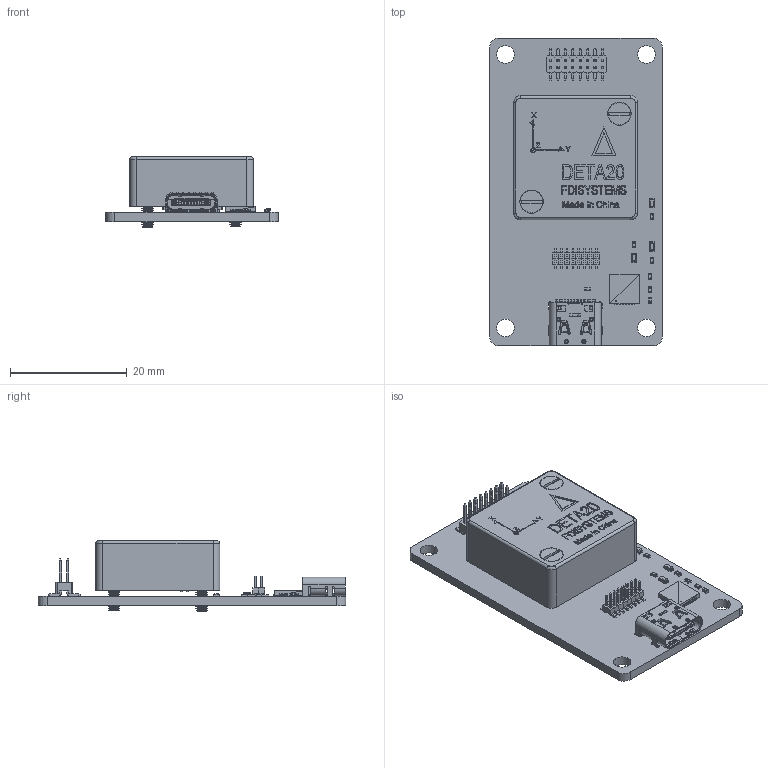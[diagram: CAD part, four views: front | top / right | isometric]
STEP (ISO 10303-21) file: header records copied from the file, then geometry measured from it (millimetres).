
FILE_DESCRIPTION(('Open CASCADE Model'),'2;1');
FILE_NAME('Open CASCADE Shape Model','2024-01-18T15:41:56',('Author'),( 'Open CASCADE'),'Open CASCADE STEP processor 6.8','Open CASCADE 6.8' ,'Unknown');
FILE_SCHEMA(('AUTOMOTIVE_DESIGN { 1 0 10303 214 1 1 1 1 }'));
Length unit declared in the file: millimetre
Products named in the file (50): PCB; Board; Open CASCADE STEP translator 6.8 3.1.1; P?1; 蚾饜极-齬渀-0720_RGB8421504; 等跺齬渀-0720; P?; HEADER_SMD_1.27X16; M?; 蚾饜极-DETA20-0726; DETA20啣赽; Open_CASCADE_STEP_translator_6.8_1.1.1; DATA20ｸﾇ; 蚾饜极-齬渀-0720.STEP; ________-0720.STEP; M1.6X5-0720.step; M2X10-0720.step; DATA20-0723; R2; RESC-0402; Open CASCADE STEP translator 6.8 3.5.1.1; Open CASCADE STEP translator 6.8 3.5.1.2; LED2; User_Library-led_0603LED0603_blue; USB1; User_Library-USB_-_C; C1; 5944051008; Terminal; Open_CASCADE_STEP_translator_6.8_54.1.1; Open_CASCADE_STEP_translator_6.8_54.1.2; Mid_Body; Open_CASCADE_STEP_translator_6.8_54.2.1; C2; 5944054848; LED1; LED3; User_Library-led_0603LED0603_green; R1; R3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
Assembly tree (86 placements, depth 6):
  PCB
    Board
      Open CASCADE STEP translator 6.8 3.1.1
    P?1
      蚾饜极-齬渀-0720_RGB8421504
        等跺齬渀-0720  x16
    P?
      HEADER_SMD_1.27X16
    M?
      蚾饜极-DETA20-0726
        DETA20啣赽
          Board
            Open_CASCADE_STEP_translator_6.8_1.1.1
        DATA20ｸﾇ
        蚾饜极-齬渀-0720.STEP
          ________-0720.STEP  x16
        M1.6X5-0720.step  x2
        M2X10-0720.step  x2
        DATA20-0723
    R2
      RESC-0402
        Open CASCADE STEP translator 6.8 3.5.1.1
        Open CASCADE STEP translator 6.8 3.5.1.2
    LED2
      User_Library-led_0603LED0603_blue
    USB1
      User_Library-USB_-_C
    C1
      5944051008
        Terminal
          Open_CASCADE_STEP_translator_6.8_54.1.1
          Open_CASCADE_STEP_translator_6.8_54.1.2
        Mid_Body
          Open_CASCADE_STEP_translator_6.8_54.2.1
    C2
      5944054848
        Terminal
          Open_CASCADE_STEP_translator_6.8_54.1.1
          Open_CASCADE_STEP_translator_6.8_54.1.2
        Mid_Body
          Open_CASCADE_STEP_translator_6.8_54.2.1
    LED1
      User_Library-led_0603LED0603_blue
    LED3
      User_Library-led_0603LED0603_green
    R1
      RESC-0402
        Open CASCADE STEP translator 6.8 3.5.1.1
        Open CASCADE STEP translator 6.8 3.5.1.2
    R3
      RESC-0402
        Open CASCADE STEP translator 6.8 3.5.1.1
        Open CASCADE STEP translator 6.8 3.5.1.2
    R4
      RESC-0402
        Open CASCADE STEP translator 6.8 3.5.1.1
        Open CASCADE STEP translator 6.8 3.5.1.2
    R5
      RESC-0402
        Open CASCADE STEP translator 6.8 3.5.1.1
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Bounding box: 29.57 x 52.71 x 12.03 mm (x, y, z)
Volume: 4993.2 mm3; surface area: 8850.4 mm2
Topology: 98 solids, 817 shells, 5117 faces, 13294 edges, 9202 vertices
Faces by surface type: plane 3288, cylinder 755, torus 390, cone 379, bspline 278, sphere 27
Full cylindrical faces by diameter (mm): 0.65 x2, 3 x6
Entity records: 150185 total; most frequent: CARTESIAN_POINT 34350, DIRECTION 18835, ORIENTED_EDGE 18654, EDGE_CURVE 10395, LINE 8063, VECTOR 8063, VERTEX_POINT 7392, AXIS2_PLACEMENT_3D 5386
